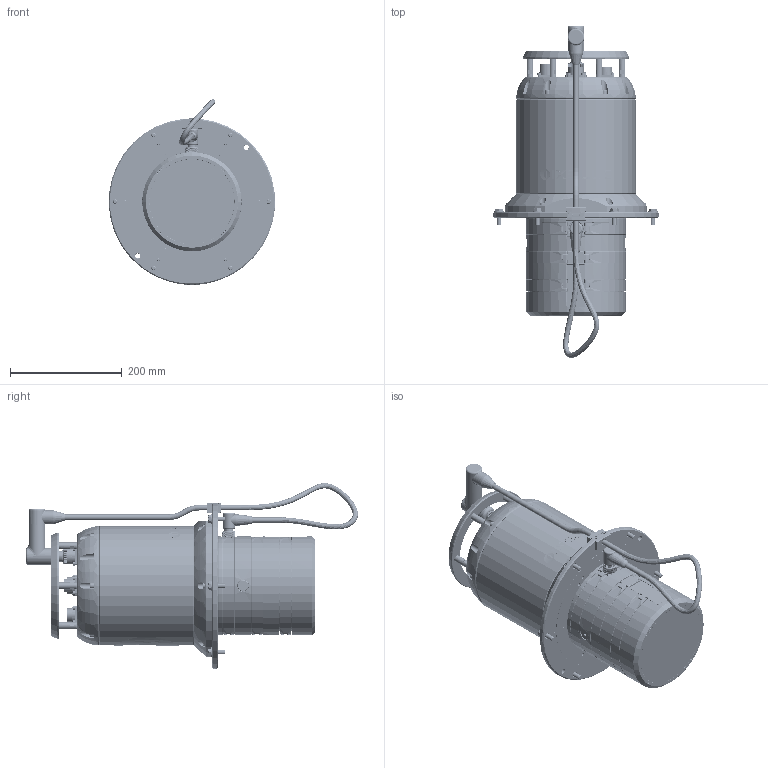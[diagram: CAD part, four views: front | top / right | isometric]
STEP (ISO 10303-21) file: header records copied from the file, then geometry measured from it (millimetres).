
FILE_DESCRIPTION (( 'STEP AP203' ), '1' );
FILE_NAME ('00171175-A_KIT PHINS 6000 TASMAN_VIDE.STEP', '2021-03-30T07:44:43', ( '' ), ( '' ), 'SwSTEP 2.0', 'SolidWorks 2018', '' );
FILE_SCHEMA (( 'CONFIG_CONTROL_DESIGN' ));
Length unit declared in the file: millimetre
Products named in the file (35): 00171184-B_Config PHINS TASMAN; 00171175-A_KIT PHINS 6000 TASMAN_VIDE; MDI00098-A; MBO00021-C; MDI00097-A; HJT00010; SME00025-A; 00171502-A; MDI00020-A; rondelles norm type M_SG_MVMU8_QRD00241; cable coude - SURMOULAGE_55A1-2008; Vis CHC_VIS CHC M6x20-TA6V_QVI00050; Vis CHC_VIS CHC M6x25-TA6V_QVI00052; SCA00001-A; Vis CHC_VIS CHC M5x16-TA6V_QVI00030; VIS H_VIS H M8x25-TA6V_QVI00115; SCA00000-C; 00177500-A; 00175300-A; CCM00037; PAA00020-D; MBO00020-B; Vis CHC_VIS CHC M3x10-TA6V_QVI00016; MBO00019-C; SCA00002-A; CCM00027; CCM00028; 00171185-A_DEFAUT PHINS TASMAN 6000m; Vis CHC_VIS CHC M6x12-TA6V_QVI00046; CCM00026; cable coude - 55A1-2008_CONNECTEUR_BURTON_8PTS_SURMOULE; RET00153-A_Phins 6000; 00171690-A; SMI04843-A; MDI00095-J
Assembly tree (98 placements, depth 5):
  00171175-A_KIT PHINS 6000 TASMAN_VIDE
    MDI00095-J
    PAA00020-D
      MBO00019-C
      MBO00020-B
      Vis CHC_VIS CHC M6x25-TA6V_QVI00052  x6
      SMI04843-A
        MBO00021-C
        SME00025-A  x6
        MDI00020-A
        Vis CHC_VIS CHC M6x12-TA6V_QVI00046  x6
        SCA00002-A
          CCM00028
        Vis CHC_VIS CHC M3x10-TA6V_QVI00016  x20
        SCA00000-C
          CCM00027
        SCA00001-A  x3
          CCM00026
      HJT00010  x2
      Vis CHC_VIS CHC M6x20-TA6V_QVI00050  x6
      RET00153-A_Phins 6000
    Vis CHC_VIS CHC M6x20-TA6V_QVI00050  x11
    00175300-A
      00171690-A
      00171502-A
    MDI00098-A
    MDI00097-A
    Vis CHC_VIS CHC M5x16-TA6V_QVI00030  x2
    VIS H_VIS H M8x25-TA6V_QVI00115  x6
    rondelles norm type M_SG_MVMU8_QRD00241  x6
    00171184-B_Config PHINS TASMAN
      00171185-A_DEFAUT PHINS TASMAN 6000m
      cable coude - 55A1-2008_CONNECTEUR_BURTON_8PTS_SURMOULE
        CCM00037
        cable coude - SURMOULAGE_55A1-2008
      00177500-A
Bounding box: 297.78 x 594.41 x 332.57 mm (x, y, z)
Volume: 8747034.6 mm3; surface area: 1527311.7 mm2
Topology: 248 solids, 250 shells, 16834 faces, 40947 edges, 25342 vertices
Faces by surface type: cylinder 5710, plane 4729, bspline 4213, cone 1128, torus 943, sphere 111
Entity records: 652171 total; most frequent: CARTESIAN_POINT 326455, ORIENTED_EDGE 76056, DIRECTION 54764, EDGE_CURVE 38028, VERTEX_POINT 23679, AXIS2_PLACEMENT_3D 20019, EDGE_LOOP 16993, ADVANCED_FACE 15599
